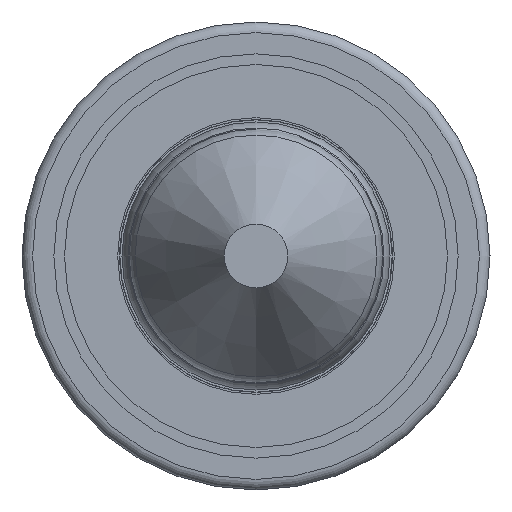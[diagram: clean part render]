
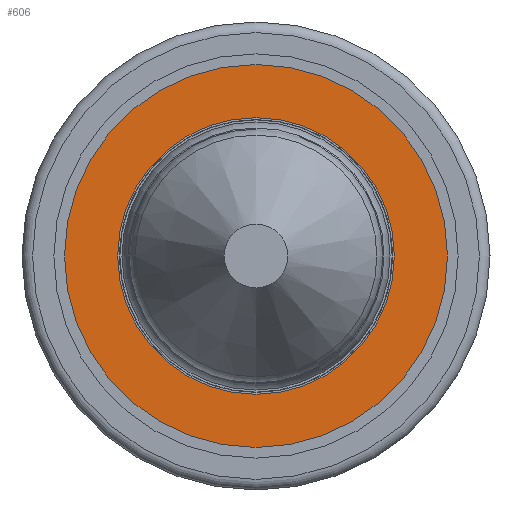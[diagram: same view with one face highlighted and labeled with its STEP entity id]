
A CAD part, left-side view. The second image highlights one B-rep face of the part: STEP entity #606.
In plain terms, the highlighted planar face has unit normal (-1, 0, 0).
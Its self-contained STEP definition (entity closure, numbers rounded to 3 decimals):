
#122=FACE_BOUND('',#222,.T.);
#162=FACE_OUTER_BOUND('',#221,.T.);
#221=EDGE_LOOP('',(#532));
#222=EDGE_LOOP('',(#533));
#257=CIRCLE('',#690,4.5);
#275=CIRCLE('',#721,3.25);
#309=VERTEX_POINT('',#1044);
#325=VERTEX_POINT('',#1133);
#369=EDGE_CURVE('',#309,#309,#257,.T.);
#396=EDGE_CURVE('',#325,#325,#275,.T.);
#532=ORIENTED_EDGE('',*,*,#369,.T.);
#533=ORIENTED_EDGE('',*,*,#396,.T.);
#565=PLANE('',#722);
#606=ADVANCED_FACE('',(#162,#122),#565,.F.);
#690=AXIS2_PLACEMENT_3D('',#1045,#856,#857);
#721=AXIS2_PLACEMENT_3D('',#1135,#926,#927);
#722=AXIS2_PLACEMENT_3D('',#1136,#928,#929);
#856=DIRECTION('center_axis',(-1.,0.,0.));
#857=DIRECTION('ref_axis',(0.,0.,1.));
#926=DIRECTION('center_axis',(1.,0.,0.));
#927=DIRECTION('ref_axis',(0.,0.,-1.));
#928=DIRECTION('center_axis',(1.,0.,0.));
#929=DIRECTION('ref_axis',(0.,0.,-1.));
#1044=CARTESIAN_POINT('',(31.3,0.,-4.5));
#1045=CARTESIAN_POINT('Origin',(31.3,0.,0.));
#1133=CARTESIAN_POINT('',(31.3,0.,-3.25));
#1135=CARTESIAN_POINT('Origin',(31.3,0.,0.));
#1136=CARTESIAN_POINT('Origin',(31.3,0.,0.));
